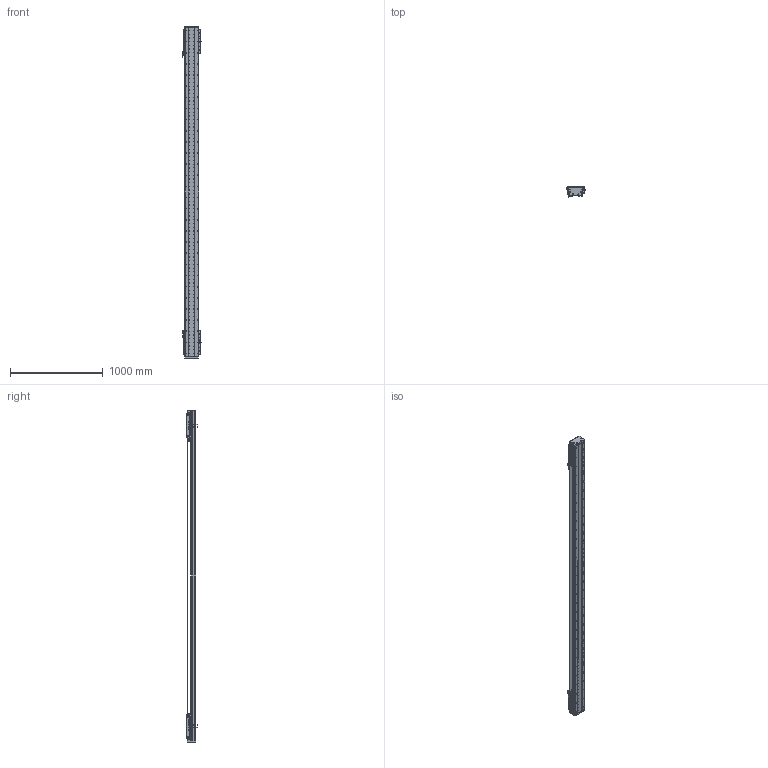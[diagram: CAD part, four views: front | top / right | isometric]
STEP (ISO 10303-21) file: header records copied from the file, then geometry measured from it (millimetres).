
FILE_DESCRIPTION (( 'STEP AP203' ), '1' );
FILE_NAME ('DA-C145-2-C3-T2960-C010-0.2 眻盄萇儂.STEP', '2025-08-14T00:38:56', ( '' ), ( '' ), 'SwSTEP 2.0', 'SolidWorks 2019', '' );
FILE_SCHEMA (( 'CONFIG_CONTROL_DESIGN' ));
Length unit declared in the file: millimetre
Products named in the file (38): 葩璃 CU145 詩湍郪璃^DA-C145-2-C3-T-C010-0.2; 葩璃 CKM03-W060-C1C2-TP-0.2^DA-C145-2-C3-T-C010-0.2; CU145-W-00 珨极趙賑雄怢啣-1; 复件 半圆头内六角螺钉 M3×6^CU145-W 滚珠滑台; 葩璃 DA95-GT-T-00^IU-CU145-L 菁釱絳寢; DA-C145-2-C3-T2960-C010-0.2 眻盄萇儂; 葩璃 CKMA01-W060-TRL^DA-C145-2-C3-T-C010-0.2; 复件 DA146 钢带垫块^复件 CU145 钢带组件_DA-C145-2-C3-T-C010-0.2; 复件 DA145-GYP-00 光电感应片^DA-C145-2-C3-T-C010-0.2; 复件 DA95-DB-00  挡板^CU145-W 滚珠滑台; 葩璃 PM-T45^DA-C145-2-C3-T-C010-0.2; DKW168-HXJ-ZJ-00 笢潔滅袉砎蝶; IU-CU145-L 菁釱絳寢; 复件 DA145-C3-DK-00 挡块^CU145-W 滚珠滑台; DKW-KGZ-ZJ-00 中间光电开关支架; 66245-CU145-HT-W-00 賑雄怢啣(3D芞祧)(00); DKW-GYP-ZJ-00 笢潔嫖萇覜茼え; TAY01-M8; 复件 DA145 钢带^复件 CU145 钢带组件_DA-C145-2-C3-T-C010-0.2; 复件 DA145-DG 钢带端盖^复件 CU145 钢带组件_DA-C145-2-C3-T-C010-0.2; 复件 DA95-HK-GT-00 滑块钢轨^CU145-W-00 一体化滑动台板; 葩璃 DA145-C3-DP-A-00 菜えA^CU145-W 幗紩賑怢; 复件 纯铜油杯 6x6mm^CU145-W 滚珠滑台; 葩璃 PM-Y65^DA-C145-2-C3-T-C010-0.2; CU145-W 幗紩賑怢; 葩璃 DA145-C3-DP-B-00 菜えB^CU145-W 幗紩賑怢; 复件 DA146 钢带拉块^复件 CU145 钢带组件_DA-C145-2-C3-T-C010-0.2; CU145-W 幗紩賑怢-1; 复件 DA145-C3-YB-A-00 压板A^CU145-W 滚珠滑台; 复件 DA145-C3-YB-B-00 压板B^CU145-W 滚珠滑台; 葩璃 XD-U-02L 棠掑喜^DA-C145-2-C3-T-C010-0.2; CU145-W-00 珨极趙賑雄怢啣; 葩璃 DA95-HXJ-00 遣喳砎蝶^DA-C145-2-C3-T-C010-0.2; 复件 内六角平端紧定螺钉 GB.T77-2000 M5×10^CU145-W 滚珠滑台; 葩璃 DMA-010-0.2 黍杅芛^DA-C145-2-C3-T-C010-0.2; 复件 DA95-MFP-01 密封片^CU145-W 滚珠滑台; IU-CU145-L-00 菁釱(L3540); 葩璃 鞠褒情蹟譫 M3^DA-C145-2-C3-T-C010-0.2
Assembly tree (180 placements, depth 4):
  DA-C145-2-C3-T2960-C010-0.2 眻盄萇儂
    IU-CU145-L 菁釱絳寢
      IU-CU145-L-00 菁釱(L3540)
      葩璃 DA95-GT-T-00^IU-CU145-L 菁釱絳寢  x4
    葩璃 CU145 詩湍郪璃^DA-C145-2-C3-T-C010-0.2
      复件 DA145-DG 钢带端盖^复件 CU145 钢带组件_DA-C145-2-C3-T-C010-0.2  x2
      复件 DA146 钢带拉块^复件 CU145 钢带组件_DA-C145-2-C3-T-C010-0.2  x2
      复件 DA146 钢带垫块^复件 CU145 钢带组件_DA-C145-2-C3-T-C010-0.2  x2
      复件 DA145 钢带^复件 CU145 钢带组件_DA-C145-2-C3-T-C010-0.2
    CU145-W 幗紩賑怢
      CU145-W-00 珨极趙賑雄怢啣
        66245-CU145-HT-W-00 賑雄怢啣(3D芞祧)(00)
        复件 DA95-HK-GT-00 滑块钢轨^CU145-W-00 一体化滑动台板  x8
      复件 DA95-MFP-01 密封片^CU145-W 滚珠滑台  x8
      复件 DA95-DB-00  挡板^CU145-W 滚珠滑台  x8
      复件 内六角平端紧定螺钉 GB.T77-2000 M5×10^CU145-W 滚珠滑台  x4
      复件 纯铜油杯 6x6mm^CU145-W 滚珠滑台  x4
      复件 半圆头内六角螺钉 M3×6^CU145-W 滚珠滑台  x16
      复件 DA145-C3-DK-00 挡块^CU145-W 滚珠滑台  x4
      葩璃 DA145-C3-DP-B-00 菜えB^CU145-W 幗紩賑怢  x2
      复件 DA145-C3-YB-B-00 压板B^CU145-W 滚珠滑台  x2
      葩璃 DA145-C3-DP-A-00 菜えA^CU145-W 幗紩賑怢  x3
      复件 DA145-C3-YB-A-00 压板A^CU145-W 滚珠滑台  x3
      TAY01-M8  x4
    CU145-W 幗紩賑怢-1
      CU145-W-00 珨极趙賑雄怢啣-1
        66245-CU145-HT-W-00 賑雄怢啣(3D芞祧)(00)
        复件 DA95-HK-GT-00 滑块钢轨^CU145-W-00 一体化滑动台板  x8
      复件 DA95-MFP-01 密封片^CU145-W 滚珠滑台  x8
      复件 DA95-DB-00  挡板^CU145-W 滚珠滑台  x8
      复件 内六角平端紧定螺钉 GB.T77-2000 M5×10^CU145-W 滚珠滑台  x4
      复件 纯铜油杯 6x6mm^CU145-W 滚珠滑台  x4
      复件 半圆头内六角螺钉 M3×6^CU145-W 滚珠滑台  x16
      复件 DA145-C3-DK-00 挡块^CU145-W 滚珠滑台  x4
      葩璃 DA145-C3-DP-B-00 菜えB^CU145-W 幗紩賑怢  x2
      复件 DA145-C3-YB-B-00 压板B^CU145-W 滚珠滑台  x2
      葩璃 DA145-C3-DP-A-00 菜えA^CU145-W 幗紩賑怢  x3
      复件 DA145-C3-YB-A-00 压板A^CU145-W 滚珠滑台  x3
      TAY01-M8  x4
    葩璃 CKMA01-W060-TRL^DA-C145-2-C3-T-C010-0.2
    葩璃 PM-T45^DA-C145-2-C3-T-C010-0.2  x4
    葩璃 XD-U-02L 棠掑喜^DA-C145-2-C3-T-C010-0.2
    葩璃 DA95-HXJ-00 遣喳砎蝶^DA-C145-2-C3-T-C010-0.2  x4
    葩璃 CKM03-W060-C1C2-TP-0.2^DA-C145-2-C3-T-C010-0.2  x2
    葩璃 DMA-010-0.2 黍杅芛^DA-C145-2-C3-T-C010-0.2  x2
    复件 DA145-GYP-00 光电感应片^DA-C145-2-C3-T-C010-0.2  x2
    DKW-GYP-ZJ-00 笢潔嫖萇覜茼え
    DKW-KGZ-ZJ-00 中间光电开关支架
    葩璃 PM-Y65^DA-C145-2-C3-T-C010-0.2
    葩璃 鞠褒情蹟譫 M3^DA-C145-2-C3-T-C010-0.2  x8
    DKW168-HXJ-ZJ-00 笢潔滅袉砎蝶
Bounding box: 213.7 x 108.45 x 3576 mm (x, y, z)
Volume: 17942756.7 mm3; surface area: 5852592.7 mm2
Topology: 175 solids, 239 shells, 7949 faces, 22089 edges, 13745 vertices
Faces by surface type: cylinder 3642, plane 2967, cone 1184, torus 140, sphere 8, bspline 8
Entity records: 163700 total; most frequent: CARTESIAN_POINT 50126, ORIENTED_EDGE 22864, DIRECTION 21225, EDGE_CURVE 11432, AXIS2_PLACEMENT_3D 7847, VERTEX_POINT 7444, LINE 5531, VECTOR 5531
